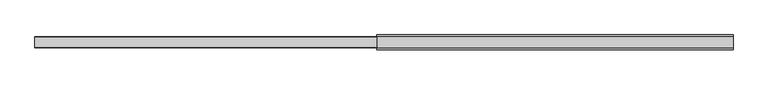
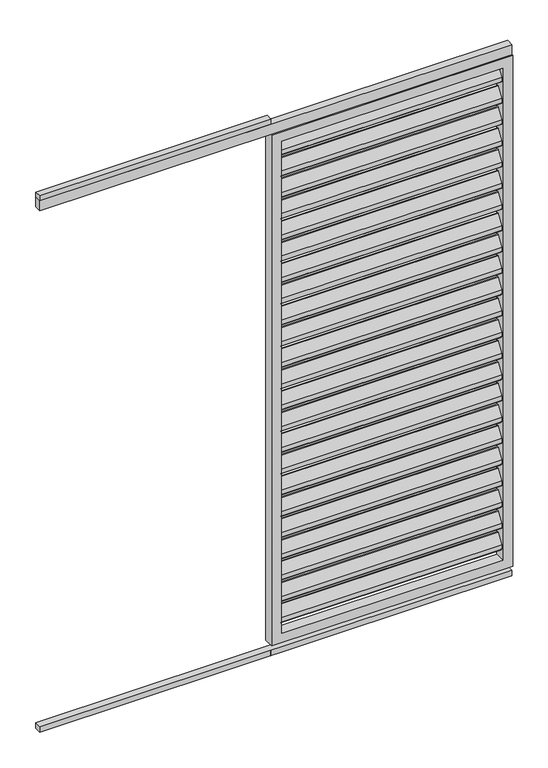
"""IFC4 building model written with IfcOpenShell, lengths in millimetres: proxy geometry, Renson_Algarve_Loggia_Paro_Aluminium : Renson_Algarve_Loggia_Paro_Aluminium."""

from ifc_helpers import new_model, si_unit, point, frame, frame_2d, origin, origin_with_axes, place, context, project, spatial, polyline, circle_curve, trimmed, segment, composite_curve, outline, extrude, source, transform, mapped, element, save


def generic_models_2691bd26(model_context):
    return source(origin(), model_context, "Body", "SweptSolid", [
        extrude(outline(composite_curve([segment(trimmed(circle_curve(frame_2d((12.6675921, 2162.6587719)), 3.0), [point((10.1515804, 2164.292689))], [point((15.6675921, 2162.6587719))], False, "CARTESIAN"), True, "CONTINUOUS"), segment(polyline([(15.6675921, 2162.6587719), (15.6675921, 2144.2979873)]), True, "CONTINUOUS"), segment(trimmed(circle_curve(frame_2d((12.6675921, 2144.2979873)), 3.0), [point((15.6675921, 2144.2979873))], [point((15.1836038, 2142.6640702))], False, "CARTESIAN"), True, "CONTINUOUS"), segment(polyline([(15.1836038, 2142.6640702), (-8.8163962, 2105.707311)]), True, "CONTINUOUS"), segment(trimmed(circle_curve(frame_2d((-11.3324079, 2107.3412281)), 3.0), [point((-8.8163962, 2105.707311))], [point((-14.3324079, 2107.3412281))], False, "CARTESIAN"), True, "CONTINUOUS"), segment(polyline([(-14.3324079, 2107.3412281), (-14.3324079, 2126.5906532), (10.1515804, 2164.292689)]), True, "CONTINUOUS")], self_intersect=False)), frame((-442.5, 0.0, 0.0), z_axis=(1.0, 0.0, 0.0), x_axis=(0.0, 1.0, 0.0)), (0.0, 0.0, 1.0), 885.0),
        extrude(outline(composite_curve([segment(trimmed(circle_curve(frame_2d((12.6675921, 2072.6587719)), 3.0), [point((10.1515804, 2074.292689))], [point((15.6675921, 2072.6587719))], False, "CARTESIAN"), True, "CONTINUOUS"), segment(polyline([(15.6675921, 2072.6587719), (15.6675921, 2054.2979873)]), True, "CONTINUOUS"), segment(trimmed(circle_curve(frame_2d((12.6675921, 2054.2979873)), 3.0), [point((15.6675921, 2054.2979873))], [point((15.1836038, 2052.6640702))], False, "CARTESIAN"), True, "CONTINUOUS"), segment(polyline([(15.1836038, 2052.6640702), (-8.8163962, 2015.707311)]), True, "CONTINUOUS"), segment(trimmed(circle_curve(frame_2d((-11.3324079, 2017.3412281)), 3.0), [point((-8.8163962, 2015.707311))], [point((-14.3324079, 2017.3412281))], False, "CARTESIAN"), True, "CONTINUOUS"), segment(polyline([(-14.3324079, 2017.3412281), (-14.3324079, 2036.5906532), (10.1515804, 2074.292689)]), True, "CONTINUOUS")], self_intersect=False)), frame((-442.5, 0.0, 0.0), z_axis=(1.0, 0.0, 0.0), x_axis=(0.0, 1.0, 0.0)), (0.0, 0.0, 1.0), 885.0),
        extrude(outline(composite_curve([segment(trimmed(circle_curve(frame_2d((12.6675921, 1982.6587719)), 3.0), [point((10.1515804, 1984.292689))], [point((15.6675921, 1982.6587719))], False, "CARTESIAN"), True, "CONTINUOUS"), segment(polyline([(15.6675921, 1982.6587719), (15.6675921, 1964.2979873)]), True, "CONTINUOUS"), segment(trimmed(circle_curve(frame_2d((12.6675921, 1964.2979873)), 3.0), [point((15.6675921, 1964.2979873))], [point((15.1836038, 1962.6640702))], False, "CARTESIAN"), True, "CONTINUOUS"), segment(polyline([(15.1836038, 1962.6640702), (-8.8163962, 1925.707311)]), True, "CONTINUOUS"), segment(trimmed(circle_curve(frame_2d((-11.3324079, 1927.3412281)), 3.0), [point((-8.8163962, 1925.707311))], [point((-14.3324079, 1927.3412281))], False, "CARTESIAN"), True, "CONTINUOUS"), segment(polyline([(-14.3324079, 1927.3412281), (-14.3324079, 1946.5906532), (10.1515804, 1984.292689)]), True, "CONTINUOUS")], self_intersect=False)), frame((-442.5, 0.0, 0.0), z_axis=(1.0, 0.0, 0.0), x_axis=(0.0, 1.0, 0.0)), (0.0, 0.0, 1.0), 885.0),
        extrude(outline(composite_curve([segment(trimmed(circle_curve(frame_2d((12.6675921, 1892.6587719)), 3.0), [point((10.1515804, 1894.292689))], [point((15.6675921, 1892.6587719))], False, "CARTESIAN"), True, "CONTINUOUS"), segment(polyline([(15.6675921, 1892.6587719), (15.6675921, 1874.2979873)]), True, "CONTINUOUS"), segment(trimmed(circle_curve(frame_2d((12.6675921, 1874.2979873)), 3.0), [point((15.6675921, 1874.2979873))], [point((15.1836038, 1872.6640702))], False, "CARTESIAN"), True, "CONTINUOUS"), segment(polyline([(15.1836038, 1872.6640702), (-8.8163962, 1835.707311)]), True, "CONTINUOUS"), segment(trimmed(circle_curve(frame_2d((-11.3324079, 1837.3412281)), 3.0), [point((-8.8163962, 1835.707311))], [point((-14.3324079, 1837.3412281))], False, "CARTESIAN"), True, "CONTINUOUS"), segment(polyline([(-14.3324079, 1837.3412281), (-14.3324079, 1856.5906532), (10.1515804, 1894.292689)]), True, "CONTINUOUS")], self_intersect=False)), frame((-442.5, 0.0, 0.0), z_axis=(1.0, 0.0, 0.0), x_axis=(0.0, 1.0, 0.0)), (0.0, 0.0, 1.0), 885.0),
        extrude(outline(composite_curve([segment(trimmed(circle_curve(frame_2d((12.6675921, 1802.6587719)), 3.0), [point((10.1515804, 1804.292689))], [point((15.6675921, 1802.6587719))], False, "CARTESIAN"), True, "CONTINUOUS"), segment(polyline([(15.6675921, 1802.6587719), (15.6675921, 1784.2979873)]), True, "CONTINUOUS"), segment(trimmed(circle_curve(frame_2d((12.6675921, 1784.2979873)), 3.0), [point((15.6675921, 1784.2979873))], [point((15.1836038, 1782.6640702))], False, "CARTESIAN"), True, "CONTINUOUS"), segment(polyline([(15.1836038, 1782.6640702), (-8.8163962, 1745.707311)]), True, "CONTINUOUS"), segment(trimmed(circle_curve(frame_2d((-11.3324079, 1747.3412281)), 3.0), [point((-8.8163962, 1745.707311))], [point((-14.3324079, 1747.3412281))], False, "CARTESIAN"), True, "CONTINUOUS"), segment(polyline([(-14.3324079, 1747.3412281), (-14.3324079, 1766.5906532), (10.1515804, 1804.292689)]), True, "CONTINUOUS")], self_intersect=False)), frame((-442.5, 0.0, 0.0), z_axis=(1.0, 0.0, 0.0), x_axis=(0.0, 1.0, 0.0)), (0.0, 0.0, 1.0), 885.0),
        extrude(outline(composite_curve([segment(trimmed(circle_curve(frame_2d((12.6675921, 1712.6587719)), 3.0), [point((10.1515804, 1714.292689))], [point((15.6675921, 1712.6587719))], False, "CARTESIAN"), True, "CONTINUOUS"), segment(polyline([(15.6675921, 1712.6587719), (15.6675921, 1694.2979873)]), True, "CONTINUOUS"), segment(trimmed(circle_curve(frame_2d((12.6675921, 1694.2979873)), 3.0), [point((15.6675921, 1694.2979873))], [point((15.1836038, 1692.6640702))], False, "CARTESIAN"), True, "CONTINUOUS"), segment(polyline([(15.1836038, 1692.6640702), (-8.8163962, 1655.707311)]), True, "CONTINUOUS"), segment(trimmed(circle_curve(frame_2d((-11.3324079, 1657.3412281)), 3.0), [point((-8.8163962, 1655.707311))], [point((-14.3324079, 1657.3412281))], False, "CARTESIAN"), True, "CONTINUOUS"), segment(polyline([(-14.3324079, 1657.3412281), (-14.3324079, 1676.5906532), (10.1515804, 1714.292689)]), True, "CONTINUOUS")], self_intersect=False)), frame((-442.5, 0.0, 0.0), z_axis=(1.0, 0.0, 0.0), x_axis=(0.0, 1.0, 0.0)), (0.0, 0.0, 1.0), 885.0),
        extrude(outline(composite_curve([segment(trimmed(circle_curve(frame_2d((12.6675921, 1622.6587719)), 3.0), [point((10.1515804, 1624.292689))], [point((15.6675921, 1622.6587719))], False, "CARTESIAN"), True, "CONTINUOUS"), segment(polyline([(15.6675921, 1622.6587719), (15.6675921, 1604.2979873)]), True, "CONTINUOUS"), segment(trimmed(circle_curve(frame_2d((12.6675921, 1604.2979873)), 3.0), [point((15.6675921, 1604.2979873))], [point((15.1836038, 1602.6640702))], False, "CARTESIAN"), True, "CONTINUOUS"), segment(polyline([(15.1836038, 1602.6640702), (-8.8163962, 1565.707311)]), True, "CONTINUOUS"), segment(trimmed(circle_curve(frame_2d((-11.3324079, 1567.3412281)), 3.0), [point((-8.8163962, 1565.707311))], [point((-14.3324079, 1567.3412281))], False, "CARTESIAN"), True, "CONTINUOUS"), segment(polyline([(-14.3324079, 1567.3412281), (-14.3324079, 1586.5906532), (10.1515804, 1624.292689)]), True, "CONTINUOUS")], self_intersect=False)), frame((-442.5, 0.0, 0.0), z_axis=(1.0, 0.0, 0.0), x_axis=(0.0, 1.0, 0.0)), (0.0, 0.0, 1.0), 885.0),
        extrude(outline(composite_curve([segment(trimmed(circle_curve(frame_2d((12.6675921, 1532.6587719)), 3.0), [point((10.1515804, 1534.292689))], [point((15.6675921, 1532.6587719))], False, "CARTESIAN"), True, "CONTINUOUS"), segment(polyline([(15.6675921, 1532.6587719), (15.6675921, 1514.2979873)]), True, "CONTINUOUS"), segment(trimmed(circle_curve(frame_2d((12.6675921, 1514.2979873)), 3.0), [point((15.6675921, 1514.2979873))], [point((15.1836038, 1512.6640702))], False, "CARTESIAN"), True, "CONTINUOUS"), segment(polyline([(15.1836038, 1512.6640702), (-8.8163962, 1475.707311)]), True, "CONTINUOUS"), segment(trimmed(circle_curve(frame_2d((-11.3324079, 1477.3412281)), 3.0), [point((-8.8163962, 1475.707311))], [point((-14.3324079, 1477.3412281))], False, "CARTESIAN"), True, "CONTINUOUS"), segment(polyline([(-14.3324079, 1477.3412281), (-14.3324079, 1496.5906532), (10.1515804, 1534.292689)]), True, "CONTINUOUS")], self_intersect=False)), frame((-442.5, 0.0, 0.0), z_axis=(1.0, 0.0, 0.0), x_axis=(0.0, 1.0, 0.0)), (0.0, 0.0, 1.0), 885.0),
        extrude(outline(composite_curve([segment(trimmed(circle_curve(frame_2d((12.6675921, 1442.6587719)), 3.0), [point((10.1515804, 1444.292689))], [point((15.6675921, 1442.6587719))], False, "CARTESIAN"), True, "CONTINUOUS"), segment(polyline([(15.6675921, 1442.6587719), (15.6675921, 1424.2979873)]), True, "CONTINUOUS"), segment(trimmed(circle_curve(frame_2d((12.6675921, 1424.2979873)), 3.0), [point((15.6675921, 1424.2979873))], [point((15.1836038, 1422.6640702))], False, "CARTESIAN"), True, "CONTINUOUS"), segment(polyline([(15.1836038, 1422.6640702), (-8.8163962, 1385.707311)]), True, "CONTINUOUS"), segment(trimmed(circle_curve(frame_2d((-11.3324079, 1387.3412281)), 3.0), [point((-8.8163962, 1385.707311))], [point((-14.3324079, 1387.3412281))], False, "CARTESIAN"), True, "CONTINUOUS"), segment(polyline([(-14.3324079, 1387.3412281), (-14.3324079, 1406.5906532), (10.1515804, 1444.292689)]), True, "CONTINUOUS")], self_intersect=False)), frame((-442.5, 0.0, 0.0), z_axis=(1.0, 0.0, 0.0), x_axis=(0.0, 1.0, 0.0)), (0.0, 0.0, 1.0), 885.0),
        extrude(outline(composite_curve([segment(trimmed(circle_curve(frame_2d((12.6675921, 1352.6587719)), 3.0), [point((10.1515804, 1354.292689))], [point((15.6675921, 1352.6587719))], False, "CARTESIAN"), True, "CONTINUOUS"), segment(polyline([(15.6675921, 1352.6587719), (15.6675921, 1334.2979873)]), True, "CONTINUOUS"), segment(trimmed(circle_curve(frame_2d((12.6675921, 1334.2979873)), 3.0), [point((15.6675921, 1334.2979873))], [point((15.1836038, 1332.6640702))], False, "CARTESIAN"), True, "CONTINUOUS"), segment(polyline([(15.1836038, 1332.6640702), (-8.8163962, 1295.707311)]), True, "CONTINUOUS"), segment(trimmed(circle_curve(frame_2d((-11.3324079, 1297.3412281)), 3.0), [point((-8.8163962, 1295.707311))], [point((-14.3324079, 1297.3412281))], False, "CARTESIAN"), True, "CONTINUOUS"), segment(polyline([(-14.3324079, 1297.3412281), (-14.3324079, 1316.5906532), (10.1515804, 1354.292689)]), True, "CONTINUOUS")], self_intersect=False)), frame((-442.5, 0.0, 0.0), z_axis=(1.0, 0.0, 0.0), x_axis=(0.0, 1.0, 0.0)), (0.0, 0.0, 1.0), 885.0),
        extrude(outline(composite_curve([segment(trimmed(circle_curve(frame_2d((12.6675921, 1262.6587719)), 3.0), [point((10.1515804, 1264.292689))], [point((15.6675921, 1262.6587719))], False, "CARTESIAN"), True, "CONTINUOUS"), segment(polyline([(15.6675921, 1262.6587719), (15.6675921, 1244.2979873)]), True, "CONTINUOUS"), segment(trimmed(circle_curve(frame_2d((12.6675921, 1244.2979873)), 3.0), [point((15.6675921, 1244.2979873))], [point((15.1836038, 1242.6640702))], False, "CARTESIAN"), True, "CONTINUOUS"), segment(polyline([(15.1836038, 1242.6640702), (-8.8163962, 1205.707311)]), True, "CONTINUOUS"), segment(trimmed(circle_curve(frame_2d((-11.3324079, 1207.3412281)), 3.0), [point((-8.8163962, 1205.707311))], [point((-14.3324079, 1207.3412281))], False, "CARTESIAN"), True, "CONTINUOUS"), segment(polyline([(-14.3324079, 1207.3412281), (-14.3324079, 1226.5906532), (10.1515804, 1264.292689)]), True, "CONTINUOUS")], self_intersect=False)), frame((-442.5, 0.0, 0.0), z_axis=(1.0, 0.0, 0.0), x_axis=(0.0, 1.0, 0.0)), (0.0, 0.0, 1.0), 885.0),
        extrude(outline(composite_curve([segment(trimmed(circle_curve(frame_2d((12.6675921, 1172.6587719)), 3.0), [point((10.1515804, 1174.292689))], [point((15.6675921, 1172.6587719))], False, "CARTESIAN"), True, "CONTINUOUS"), segment(polyline([(15.6675921, 1172.6587719), (15.6675921, 1154.2979873)]), True, "CONTINUOUS"), segment(trimmed(circle_curve(frame_2d((12.6675921, 1154.2979873)), 3.0), [point((15.6675921, 1154.2979873))], [point((15.1836038, 1152.6640702))], False, "CARTESIAN"), True, "CONTINUOUS"), segment(polyline([(15.1836038, 1152.6640702), (-8.8163962, 1115.707311)]), True, "CONTINUOUS"), segment(trimmed(circle_curve(frame_2d((-11.3324079, 1117.3412281)), 3.0), [point((-8.8163962, 1115.707311))], [point((-14.3324079, 1117.3412281))], False, "CARTESIAN"), True, "CONTINUOUS"), segment(polyline([(-14.3324079, 1117.3412281), (-14.3324079, 1136.5906532), (10.1515804, 1174.292689)]), True, "CONTINUOUS")], self_intersect=False)), frame((-442.5, 0.0, 0.0), z_axis=(1.0, 0.0, 0.0), x_axis=(0.0, 1.0, 0.0)), (0.0, 0.0, 1.0), 885.0),
        extrude(outline(composite_curve([segment(trimmed(circle_curve(frame_2d((12.6675921, 1082.6587719)), 3.0), [point((10.1515804, 1084.292689))], [point((15.6675921, 1082.6587719))], False, "CARTESIAN"), True, "CONTINUOUS"), segment(polyline([(15.6675921, 1082.6587719), (15.6675921, 1064.2979873)]), True, "CONTINUOUS"), segment(trimmed(circle_curve(frame_2d((12.6675921, 1064.2979873)), 3.0), [point((15.6675921, 1064.2979873))], [point((15.1836038, 1062.6640702))], False, "CARTESIAN"), True, "CONTINUOUS"), segment(polyline([(15.1836038, 1062.6640702), (-8.8163962, 1025.707311)]), True, "CONTINUOUS"), segment(trimmed(circle_curve(frame_2d((-11.3324079, 1027.3412281)), 3.0), [point((-8.8163962, 1025.707311))], [point((-14.3324079, 1027.3412281))], False, "CARTESIAN"), True, "CONTINUOUS"), segment(polyline([(-14.3324079, 1027.3412281), (-14.3324079, 1046.5906532), (10.1515804, 1084.292689)]), True, "CONTINUOUS")], self_intersect=False)), frame((-442.5, 0.0, 0.0), z_axis=(1.0, 0.0, 0.0), x_axis=(0.0, 1.0, 0.0)), (0.0, 0.0, 1.0), 885.0),
        extrude(outline(composite_curve([segment(trimmed(circle_curve(frame_2d((12.6675921, 992.6587719)), 3.0), [point((10.1515804, 994.292689))], [point((15.6675921, 992.6587719))], False, "CARTESIAN"), True, "CONTINUOUS"), segment(polyline([(15.6675921, 992.6587719), (15.6675921, 974.2979873)]), True, "CONTINUOUS"), segment(trimmed(circle_curve(frame_2d((12.6675921, 974.2979873)), 3.0), [point((15.6675921, 974.2979873))], [point((15.1836038, 972.6640702))], False, "CARTESIAN"), True, "CONTINUOUS"), segment(polyline([(15.1836038, 972.6640702), (-8.8163962, 935.707311)]), True, "CONTINUOUS"), segment(trimmed(circle_curve(frame_2d((-11.3324079, 937.3412281)), 3.0), [point((-8.8163962, 935.707311))], [point((-14.3324079, 937.3412281))], False, "CARTESIAN"), True, "CONTINUOUS"), segment(polyline([(-14.3324079, 937.3412281), (-14.3324079, 956.5906532), (10.1515804, 994.292689)]), True, "CONTINUOUS")], self_intersect=False)), frame((-442.5, 0.0, 0.0), z_axis=(1.0, 0.0, 0.0), x_axis=(0.0, 1.0, 0.0)), (0.0, 0.0, 1.0), 885.0),
        extrude(outline(composite_curve([segment(trimmed(circle_curve(frame_2d((12.6675921, 902.6587719)), 3.0), [point((10.1515804, 904.292689))], [point((15.6675921, 902.6587719))], False, "CARTESIAN"), True, "CONTINUOUS"), segment(polyline([(15.6675921, 902.6587719), (15.6675921, 884.2979873)]), True, "CONTINUOUS"), segment(trimmed(circle_curve(frame_2d((12.6675921, 884.2979873)), 3.0), [point((15.6675921, 884.2979873))], [point((15.1836038, 882.6640702))], False, "CARTESIAN"), True, "CONTINUOUS"), segment(polyline([(15.1836038, 882.6640702), (-8.8163962, 845.707311)]), True, "CONTINUOUS"), segment(trimmed(circle_curve(frame_2d((-11.3324079, 847.3412281)), 3.0), [point((-8.8163962, 845.707311))], [point((-14.3324079, 847.3412281))], False, "CARTESIAN"), True, "CONTINUOUS"), segment(polyline([(-14.3324079, 847.3412281), (-14.3324079, 866.5906532), (10.1515804, 904.292689)]), True, "CONTINUOUS")], self_intersect=False)), frame((-442.5, 0.0, 0.0), z_axis=(1.0, 0.0, 0.0), x_axis=(0.0, 1.0, 0.0)), (0.0, 0.0, 1.0), 885.0),
        extrude(outline(composite_curve([segment(trimmed(circle_curve(frame_2d((12.6675921, 812.6587719)), 3.0), [point((10.1515804, 814.292689))], [point((15.6675921, 812.6587719))], False, "CARTESIAN"), True, "CONTINUOUS"), segment(polyline([(15.6675921, 812.6587719), (15.6675921, 794.2979873)]), True, "CONTINUOUS"), segment(trimmed(circle_curve(frame_2d((12.6675921, 794.2979873)), 3.0), [point((15.6675921, 794.2979873))], [point((15.1836038, 792.6640702))], False, "CARTESIAN"), True, "CONTINUOUS"), segment(polyline([(15.1836038, 792.6640702), (-8.8163962, 755.707311)]), True, "CONTINUOUS"), segment(trimmed(circle_curve(frame_2d((-11.3324079, 757.3412281)), 3.0), [point((-8.8163962, 755.707311))], [point((-14.3324079, 757.3412281))], False, "CARTESIAN"), True, "CONTINUOUS"), segment(polyline([(-14.3324079, 757.3412281), (-14.3324079, 776.5906532), (10.1515804, 814.292689)]), True, "CONTINUOUS")], self_intersect=False)), frame((-442.5, 0.0, 0.0), z_axis=(1.0, 0.0, 0.0), x_axis=(0.0, 1.0, 0.0)), (0.0, 0.0, 1.0), 885.0),
        extrude(outline(composite_curve([segment(trimmed(circle_curve(frame_2d((12.6675921, 722.6587719)), 3.0), [point((10.1515804, 724.292689))], [point((15.6675921, 722.6587719))], False, "CARTESIAN"), True, "CONTINUOUS"), segment(polyline([(15.6675921, 722.6587719), (15.6675921, 704.2979873)]), True, "CONTINUOUS"), segment(trimmed(circle_curve(frame_2d((12.6675921, 704.2979873)), 3.0), [point((15.6675921, 704.2979873))], [point((15.1836038, 702.6640702))], False, "CARTESIAN"), True, "CONTINUOUS"), segment(polyline([(15.1836038, 702.6640702), (-8.8163962, 665.707311)]), True, "CONTINUOUS"), segment(trimmed(circle_curve(frame_2d((-11.3324079, 667.3412281)), 3.0), [point((-8.8163962, 665.707311))], [point((-14.3324079, 667.3412281))], False, "CARTESIAN"), True, "CONTINUOUS"), segment(polyline([(-14.3324079, 667.3412281), (-14.3324079, 686.5906532), (10.1515804, 724.292689)]), True, "CONTINUOUS")], self_intersect=False)), frame((-442.5, 0.0, 0.0), z_axis=(1.0, 0.0, 0.0), x_axis=(0.0, 1.0, 0.0)), (0.0, 0.0, 1.0), 885.0),
        extrude(outline(composite_curve([segment(trimmed(circle_curve(frame_2d((12.6675921, 632.6587719)), 3.0), [point((10.1515804, 634.292689))], [point((15.6675921, 632.6587719))], False, "CARTESIAN"), True, "CONTINUOUS"), segment(polyline([(15.6675921, 632.6587719), (15.6675921, 614.2979873)]), True, "CONTINUOUS"), segment(trimmed(circle_curve(frame_2d((12.6675921, 614.2979873)), 3.0), [point((15.6675921, 614.2979873))], [point((15.1836038, 612.6640702))], False, "CARTESIAN"), True, "CONTINUOUS"), segment(polyline([(15.1836038, 612.6640702), (-8.8163962, 575.707311)]), True, "CONTINUOUS"), segment(trimmed(circle_curve(frame_2d((-11.3324079, 577.3412281)), 3.0), [point((-8.8163962, 575.707311))], [point((-14.3324079, 577.3412281))], False, "CARTESIAN"), True, "CONTINUOUS"), segment(polyline([(-14.3324079, 577.3412281), (-14.3324079, 596.5906532), (10.1515804, 634.292689)]), True, "CONTINUOUS")], self_intersect=False)), frame((-442.5, 0.0, 0.0), z_axis=(1.0, 0.0, 0.0), x_axis=(0.0, 1.0, 0.0)), (0.0, 0.0, 1.0), 885.0),
        extrude(outline(composite_curve([segment(trimmed(circle_curve(frame_2d((12.6675921, 542.6587719)), 3.0), [point((10.1515804, 544.292689))], [point((15.6675921, 542.6587719))], False, "CARTESIAN"), True, "CONTINUOUS"), segment(polyline([(15.6675921, 542.6587719), (15.6675921, 524.2979873)]), True, "CONTINUOUS"), segment(trimmed(circle_curve(frame_2d((12.6675921, 524.2979873)), 3.0), [point((15.6675921, 524.2979873))], [point((15.1836038, 522.6640702))], False, "CARTESIAN"), True, "CONTINUOUS"), segment(polyline([(15.1836038, 522.6640702), (-8.8163962, 485.707311)]), True, "CONTINUOUS"), segment(trimmed(circle_curve(frame_2d((-11.3324079, 487.3412281)), 3.0), [point((-8.8163962, 485.707311))], [point((-14.3324079, 487.3412281))], False, "CARTESIAN"), True, "CONTINUOUS"), segment(polyline([(-14.3324079, 487.3412281), (-14.3324079, 506.5906532), (10.1515804, 544.292689)]), True, "CONTINUOUS")], self_intersect=False)), frame((-442.5, 0.0, 0.0), z_axis=(1.0, 0.0, 0.0), x_axis=(0.0, 1.0, 0.0)), (0.0, 0.0, 1.0), 885.0),
        extrude(outline(composite_curve([segment(trimmed(circle_curve(frame_2d((12.6675921, 452.6587719)), 3.0), [point((10.1515804, 454.292689))], [point((15.6675921, 452.6587719))], False, "CARTESIAN"), True, "CONTINUOUS"), segment(polyline([(15.6675921, 452.6587719), (15.6675921, 434.2979873)]), True, "CONTINUOUS"), segment(trimmed(circle_curve(frame_2d((12.6675921, 434.2979873)), 3.0), [point((15.6675921, 434.2979873))], [point((15.1836038, 432.6640702))], False, "CARTESIAN"), True, "CONTINUOUS"), segment(polyline([(15.1836038, 432.6640702), (-8.8163962, 395.707311)]), True, "CONTINUOUS"), segment(trimmed(circle_curve(frame_2d((-11.3324079, 397.3412281)), 3.0), [point((-8.8163962, 395.707311))], [point((-14.3324079, 397.3412281))], False, "CARTESIAN"), True, "CONTINUOUS"), segment(polyline([(-14.3324079, 397.3412281), (-14.3324079, 416.5906532), (10.1515804, 454.292689)]), True, "CONTINUOUS")], self_intersect=False)), frame((-442.5, 0.0, 0.0), z_axis=(1.0, 0.0, 0.0), x_axis=(0.0, 1.0, 0.0)), (0.0, 0.0, 1.0), 885.0),
        extrude(outline(composite_curve([segment(trimmed(circle_curve(frame_2d((12.6675921, 362.6587719)), 3.0), [point((10.1515804, 364.292689))], [point((15.6675921, 362.6587719))], False, "CARTESIAN"), True, "CONTINUOUS"), segment(polyline([(15.6675921, 362.6587719), (15.6675921, 344.2979873)]), True, "CONTINUOUS"), segment(trimmed(circle_curve(frame_2d((12.6675921, 344.2979873)), 3.0), [point((15.6675921, 344.2979873))], [point((15.1836038, 342.6640702))], False, "CARTESIAN"), True, "CONTINUOUS"), segment(polyline([(15.1836038, 342.6640702), (-8.8163962, 305.707311)]), True, "CONTINUOUS"), segment(trimmed(circle_curve(frame_2d((-11.3324079, 307.3412281)), 3.0), [point((-8.8163962, 305.707311))], [point((-14.3324079, 307.3412281))], False, "CARTESIAN"), True, "CONTINUOUS"), segment(polyline([(-14.3324079, 307.3412281), (-14.3324079, 326.5906532), (10.1515804, 364.292689)]), True, "CONTINUOUS")], self_intersect=False)), frame((-442.5, 0.0, 0.0), z_axis=(1.0, 0.0, 0.0), x_axis=(0.0, 1.0, 0.0)), (0.0, 0.0, 1.0), 885.0),
        extrude(outline(composite_curve([segment(trimmed(circle_curve(frame_2d((12.6675921, 272.6587719)), 3.0), [point((10.1515804, 274.292689))], [point((15.6675921, 272.6587719))], False, "CARTESIAN"), True, "CONTINUOUS"), segment(polyline([(15.6675921, 272.6587719), (15.6675921, 254.2979873)]), True, "CONTINUOUS"), segment(trimmed(circle_curve(frame_2d((12.6675921, 254.2979873)), 3.0), [point((15.6675921, 254.2979873))], [point((15.1836038, 252.6640702))], False, "CARTESIAN"), True, "CONTINUOUS"), segment(polyline([(15.1836038, 252.6640702), (-8.8163962, 215.707311)]), True, "CONTINUOUS"), segment(trimmed(circle_curve(frame_2d((-11.3324079, 217.3412281)), 3.0), [point((-8.8163962, 215.707311))], [point((-14.3324079, 217.3412281))], False, "CARTESIAN"), True, "CONTINUOUS"), segment(polyline([(-14.3324079, 217.3412281), (-14.3324079, 236.5906532), (10.1515804, 274.292689)]), True, "CONTINUOUS")], self_intersect=False)), frame((-442.5, 0.0, 0.0), z_axis=(1.0, 0.0, 0.0), x_axis=(0.0, 1.0, 0.0)), (0.0, 0.0, 1.0), 885.0),
        extrude(outline(composite_curve([segment(trimmed(circle_curve(frame_2d((12.6675921, 182.6587719)), 3.0), [point((10.1515804, 184.292689))], [point((15.6675921, 182.6587719))], False, "CARTESIAN"), True, "CONTINUOUS"), segment(polyline([(15.6675921, 182.6587719), (15.6675921, 164.2979873)]), True, "CONTINUOUS"), segment(trimmed(circle_curve(frame_2d((12.6675921, 164.2979873)), 3.0), [point((15.6675921, 164.2979873))], [point((15.1836038, 162.6640702))], False, "CARTESIAN"), True, "CONTINUOUS"), segment(polyline([(15.1836038, 162.6640702), (-8.8163962, 125.707311)]), True, "CONTINUOUS"), segment(trimmed(circle_curve(frame_2d((-11.3324079, 127.3412281)), 3.0), [point((-8.8163962, 125.707311))], [point((-14.3324079, 127.3412281))], False, "CARTESIAN"), True, "CONTINUOUS"), segment(polyline([(-14.3324079, 127.3412281), (-14.3324079, 146.5906532), (10.1515804, 184.292689)]), True, "CONTINUOUS")], self_intersect=False)), frame((-442.5, 0.0, 0.0), z_axis=(1.0, 0.0, 0.0), x_axis=(0.0, 1.0, 0.0)), (0.0, 0.0, 1.0), 885.0),
        extrude(outline(polyline([(-481.5, -13.0), (-1407.5, -13.0), (-1407.5, 14.0), (-481.5, 14.0), (-481.5, -13.0)])), frame((0.0, 0.0, 2250.0), z_axis=(0.0, 0.0, 1.0), x_axis=(1.0, 0.0, 0.0)), (0.0, 0.0, 1.0), 20.0),
        extrude(outline(polyline([(482.5, 15.0), (482.5, -15.0), (-1407.5, -15.0), (-1407.5, 15.0), (482.5, 15.0)])), frame((0.0, 0.0, 2207.7138321), z_axis=(0.0, 0.0, 1.0), x_axis=(1.0, 0.0, 0.0)), (0.0, 0.0, 1.0), 42.2861679),
        extrude(outline(polyline([(-481.5, 15.0), (-481.5, -15.0), (-482.5, -15.0), (-482.5, 15.0), (-481.5, 15.0)])), frame((0.0, 0.0, 2207.7138321), z_axis=(0.0, 0.0, 1.0), x_axis=(1.0, 0.0, 0.0)), (0.0, 0.0, 1.0), 42.2861679),
        extrude(outline(polyline([(482.5, -13.0), (-1407.5, -13.0), (-1407.5, 14.0), (482.5, 14.0), (482.5, -13.0)])), origin_with_axes(), (0.0, 0.0, 1.0), 23.0),
        extrude(outline(polyline([(-481.5, -13.0), (-482.5, -13.0), (-482.5, 14.0), (-481.5, 14.0), (-481.5, -13.0)])), origin_with_axes(), (0.0, 0.0, 1.0), 23.0),
        extrude(outline(polyline([(2207.7138321, -482.5), (45.0, -482.5), (45.0, 482.5), (2207.7138321, 482.5), (2207.7138321, -482.5)]), holes=[polyline([(2167.7138321, 442.5), (85.0, 442.5), (85.0, -442.5), (2167.7138321, -442.5), (2167.7138321, 442.5)])]), frame((0.0, -20.0, 0.0), z_axis=(0.0, 1.0, 0.0), x_axis=(0.0, 0.0, 1.0)), (0.0, 0.0, 1.0), 40.0),
    ])


if __name__ == "__main__":
    model = new_model("IFC4")
    model_context = context("Model", 3, world=origin())
    ifc_project = project(units=[si_unit("LENGTHUNIT", "METRE", prefix="MILLI")], contexts=[model_context])
    site = spatial("IfcSite", under=ifc_project)
    building = spatial("IfcBuilding", under=site)
    placement = place(None, origin())
    generic_models_shape = generic_models_2691bd26(model_context)
    element("IfcBuildingElementProxy", 1, Name="Renson_Algarve_Loggia_Paro_Aluminium : Renson_Algarve_Loggia_Paro_Aluminium", ObjectType="Renson_Algarve_Loggia_Paro_Aluminium : Renson_Algarve_Loggia_Paro_Aluminium", at=placement, inside=building, context=model_context, shape_type="MappedRepresentation", body=[
        mapped(generic_models_shape, transform((0.0, 0.0, 0.0), x_axis=(1.0, 0.0, 0.0), y_axis=(0.0, 1.0, 0.0), z_axis=(0.0, 0.0, 1.0))),
    ])
    save(model, "model.ifc")
